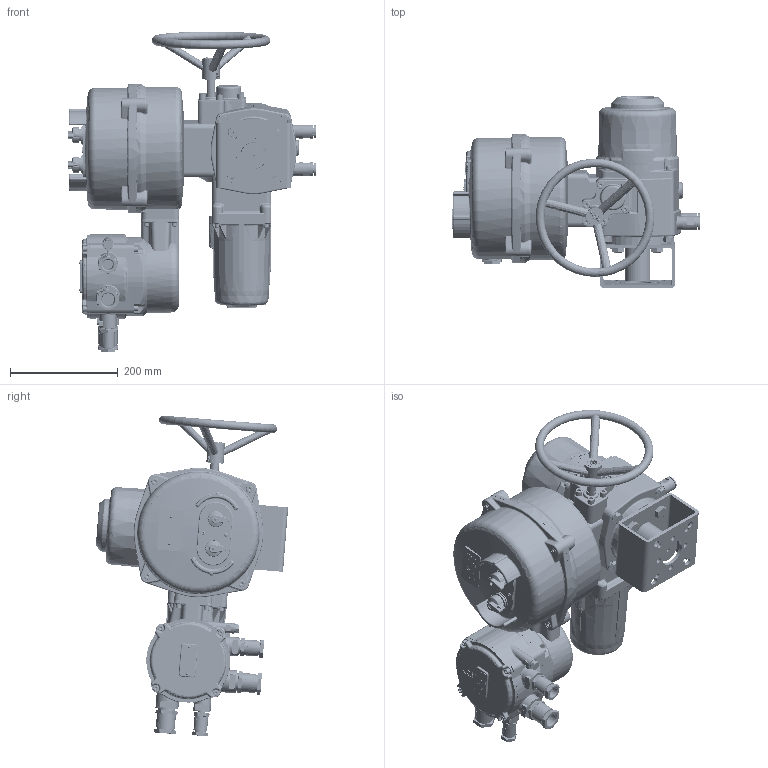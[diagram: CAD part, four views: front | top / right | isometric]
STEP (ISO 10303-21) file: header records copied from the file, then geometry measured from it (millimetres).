
FILE_DESCRIPTION(('STEP AP203'), '1');
FILE_NAME('ÃÇ-ÎÔÂ-ÊÑ òèïîðàçìåð 8021', '', ('UNSPECIFIED'), ('UNSPECIFIED'), 'C3D Converter', 'C3D Toolkit', '');
FILE_SCHEMA(('CONFIG_CONTROL_DESIGN'));
Length unit declared in the file: millimetre
Products named in the file (1): ГЗ-ОФВ-КС типоразмер 8021
Bounding box: 461.46 x 356.67 x 594.72 mm (x, y, z)
Volume: 432904.9 mm3; surface area: 1793837.7 mm2
Topology: 4 solids, 224 shells, 15777 faces, 42786 edges, 28192 vertices
Faces by surface type: plane 7396, bspline 3902, cylinder 2360, cone 1241, torus 715, sphere 163
Full cylindrical faces by diameter (mm): 1.5 x1, 2.2 x4, 2.459 x65, 2.675 x16, 2.9 x1, 3 x18, 3.11 x2, 3.2 x28, 3.242 x14, 3.5 x8, 3.545 x5, 3.8 x54, 4 x13, 4.1 x108, 4.134 x17, 4.3 x5, 4.48 x9, 4.5 x59, 4.917 x29, 5 x67, 5.1 x1, 5.2 x9, 5.3 x9, 5.5 x4, 6 x34, 6.5 x1, 6.647 x10, 7 x40, 7.5 x13, 8 x22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
Entity records: 1033114 total; most frequent: CARTESIAN_POINT 555546, ORIENTED_EDGE 80346, DIRECTION 57383, EDGE_CURVE 40217, VERTEX_POINT 27690, AXIS2_PLACEMENT_3D 21107, EDGE_LOOP 19081, FACE_BOUND 17739
